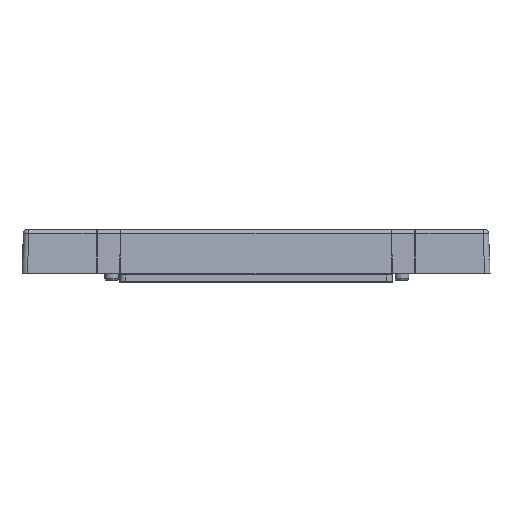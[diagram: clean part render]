
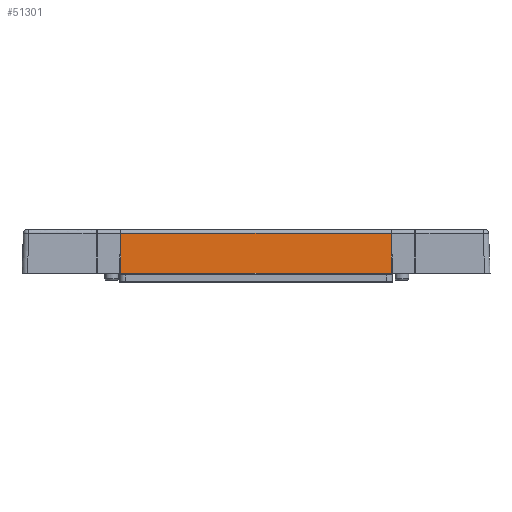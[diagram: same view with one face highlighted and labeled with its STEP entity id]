
A CAD part, front view. The second image highlights one B-rep face of the part: STEP entity #51301.
In plain terms, the highlighted planar face has unit normal (0, -0.999, 0.035).
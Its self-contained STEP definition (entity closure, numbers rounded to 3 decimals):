
#24635 = CYLINDRICAL_SURFACE('',#24636,3.);
#24636 = AXIS2_PLACEMENT_3D('',#24637,#24638,#24639);
#24637 = CARTESIAN_POINT('',(270.2,163.95,48.3));
#24638 = DIRECTION('',(-1.,-0.,-0.));
#24639 = DIRECTION('',(0.,-0.999,0.035));
#41172 = VERTEX_POINT('',#41173);
#41173 = CARTESIAN_POINT('',(70.8,160.951,48.405));
#41217 = B_SPLINE_SURFACE_WITH_KNOTS('',1,1,(
    (#41218,#41219)
    ,(#41220,#41221
    )),.UNSPECIFIED.,.F.,.F.,.F.,(2,2),(2,2),(-7.584,0.),(0.,1.),
  .PIECEWISE_BEZIER_KNOTS.);
#41218 = CARTESIAN_POINT('',(63.216,161.053,51.3));
#41219 = CARTESIAN_POINT('',(64.365,159.904,18.4));
#41220 = CARTESIAN_POINT('',(70.8,161.053,51.3));
#41221 = CARTESIAN_POINT('',(70.8,159.904,18.4));
#41232 = VERTEX_POINT('',#41233);
#41233 = CARTESIAN_POINT('',(270.2,160.951,48.405));
#41264 = EDGE_CURVE('',#41232,#41172,#41265,.T.);
#41265 = SURFACE_CURVE('',#41266,(#41270,#41277),.PCURVE_S1.);
#41266 = LINE('',#41267,#41268);
#41267 = CARTESIAN_POINT('',(270.2,160.951,48.405));
#41268 = VECTOR('',#41269,1.);
#41269 = DIRECTION('',(-1.,-0.,-0.));
#41270 = PCURVE('',#24635,#41271);
#41271 = DEFINITIONAL_REPRESENTATION('',(#41272),#41276);
#41272 = LINE('',#41273,#41274);
#41273 = CARTESIAN_POINT('',(0.,0.));
#41274 = VECTOR('',#41275,1.);
#41275 = DIRECTION('',(0.,1.));
#41276 = ( GEOMETRIC_REPRESENTATION_CONTEXT(2) 
PARAMETRIC_REPRESENTATION_CONTEXT() REPRESENTATION_CONTEXT('2D SPACE',''
  ) );
#41277 = PCURVE('',#41278,#41283);
#41278 = PLANE('',#41279);
#41279 = AXIS2_PLACEMENT_3D('',#41280,#41281,#41282);
#41280 = CARTESIAN_POINT('',(70.8,159.904,18.4));
#41281 = DIRECTION('',(0.,0.999,-0.035));
#41282 = DIRECTION('',(1.,0.,0.));
#41283 = DEFINITIONAL_REPRESENTATION('',(#41284),#41288);
#41284 = LINE('',#41285,#41286);
#41285 = CARTESIAN_POINT('',(199.4,-30.023));
#41286 = VECTOR('',#41287,1.);
#41287 = DIRECTION('',(-1.,0.));
#41288 = ( GEOMETRIC_REPRESENTATION_CONTEXT(2) 
PARAMETRIC_REPRESENTATION_CONTEXT() REPRESENTATION_CONTEXT('2D SPACE',''
  ) );
#41330 = B_SPLINE_SURFACE_WITH_KNOTS('',1,1,(
    (#41331,#41332)
    ,(#41333,#41334
    )),.UNSPECIFIED.,.F.,.F.,.F.,(2,2),(2,2),(-9.853,0.),(0.,1.),
  .PIECEWISE_BEZIER_KNOTS.);
#41331 = CARTESIAN_POINT('',(270.2,161.053,51.3));
#41332 = CARTESIAN_POINT('',(270.2,159.904,18.4));
#41333 = CARTESIAN_POINT('',(280.053,161.053,51.3));
#41334 = CARTESIAN_POINT('',(278.904,159.904,18.4));
#51256 = VERTEX_POINT('',#51257);
#51257 = CARTESIAN_POINT('',(70.8,159.924,18.979));
#51283 = EDGE_CURVE('',#41172,#51256,#51284,.T.);
#51284 = SURFACE_CURVE('',#51285,(#51288,#51295),.PCURVE_S1.);
#51285 = B_SPLINE_CURVE_WITH_KNOTS('',1,(#51286,#51287),.UNSPECIFIED.,
  .F.,.F.,(2,2),(0.,1.),.PIECEWISE_BEZIER_KNOTS.);
#51286 = CARTESIAN_POINT('',(70.8,161.053,51.3));
#51287 = CARTESIAN_POINT('',(70.8,159.904,18.4));
#51288 = PCURVE('',#41217,#51289);
#51289 = DEFINITIONAL_REPRESENTATION('',(#51290),#51294);
#51290 = LINE('',#51291,#51292);
#51291 = CARTESIAN_POINT('',(0.,0.));
#51292 = VECTOR('',#51293,1.);
#51293 = DIRECTION('',(0.,1.));
#51294 = ( GEOMETRIC_REPRESENTATION_CONTEXT(2) 
PARAMETRIC_REPRESENTATION_CONTEXT() REPRESENTATION_CONTEXT('2D SPACE',''
  ) );
#51295 = PCURVE('',#41278,#51296);
#51296 = DEFINITIONAL_REPRESENTATION('',(#51297),#51300);
#51297 = B_SPLINE_CURVE_WITH_KNOTS('',1,(#51298,#51299),.UNSPECIFIED.,
  .F.,.F.,(2,2),(0.,1.),.PIECEWISE_BEZIER_KNOTS.);
#51298 = CARTESIAN_POINT('',(0.,-32.92));
#51299 = CARTESIAN_POINT('',(0.,0.));
#51300 = ( GEOMETRIC_REPRESENTATION_CONTEXT(2) 
PARAMETRIC_REPRESENTATION_CONTEXT() REPRESENTATION_CONTEXT('2D SPACE',''
  ) );
#51301 = ADVANCED_FACE('',(#51302),#41278,.F.);
#51302 = FACE_BOUND('',#51303,.F.);
#51303 = EDGE_LOOP('',(#51304,#51325,#51351,#51352));
#51304 = ORIENTED_EDGE('',*,*,#51305,.T.);
#51305 = EDGE_CURVE('',#41232,#51306,#51308,.T.);
#51306 = VERTEX_POINT('',#51307);
#51307 = CARTESIAN_POINT('',(270.2,159.924,18.979));
#51308 = SURFACE_CURVE('',#51309,(#51312,#51318),.PCURVE_S1.);
#51309 = B_SPLINE_CURVE_WITH_KNOTS('',1,(#51310,#51311),.UNSPECIFIED.,
  .F.,.F.,(2,2),(0.,1.),.PIECEWISE_BEZIER_KNOTS.);
#51310 = CARTESIAN_POINT('',(270.2,161.053,51.3));
#51311 = CARTESIAN_POINT('',(270.2,159.904,18.4));
#51312 = PCURVE('',#41278,#51313);
#51313 = DEFINITIONAL_REPRESENTATION('',(#51314),#51317);
#51314 = B_SPLINE_CURVE_WITH_KNOTS('',1,(#51315,#51316),.UNSPECIFIED.,
  .F.,.F.,(2,2),(0.,1.),.PIECEWISE_BEZIER_KNOTS.);
#51315 = CARTESIAN_POINT('',(199.4,-32.92));
#51316 = CARTESIAN_POINT('',(199.4,0.));
#51317 = ( GEOMETRIC_REPRESENTATION_CONTEXT(2) 
PARAMETRIC_REPRESENTATION_CONTEXT() REPRESENTATION_CONTEXT('2D SPACE',''
  ) );
#51318 = PCURVE('',#41330,#51319);
#51319 = DEFINITIONAL_REPRESENTATION('',(#51320),#51324);
#51320 = LINE('',#51321,#51322);
#51321 = CARTESIAN_POINT('',(-9.853,0.));
#51322 = VECTOR('',#51323,1.);
#51323 = DIRECTION('',(0.,1.));
#51324 = ( GEOMETRIC_REPRESENTATION_CONTEXT(2) 
PARAMETRIC_REPRESENTATION_CONTEXT() REPRESENTATION_CONTEXT('2D SPACE',''
  ) );
#51325 = ORIENTED_EDGE('',*,*,#51326,.T.);
#51326 = EDGE_CURVE('',#51306,#51256,#51327,.T.);
#51327 = SURFACE_CURVE('',#51328,(#51332,#51339),.PCURVE_S1.);
#51328 = LINE('',#51329,#51330);
#51329 = CARTESIAN_POINT('',(270.2,159.924,18.979));
#51330 = VECTOR('',#51331,1.);
#51331 = DIRECTION('',(-1.,-0.,-0.));
#51332 = PCURVE('',#41278,#51333);
#51333 = DEFINITIONAL_REPRESENTATION('',(#51334),#51338);
#51334 = LINE('',#51335,#51336);
#51335 = CARTESIAN_POINT('',(199.4,-0.579));
#51336 = VECTOR('',#51337,1.);
#51337 = DIRECTION('',(-1.,0.));
#51338 = ( GEOMETRIC_REPRESENTATION_CONTEXT(2) 
PARAMETRIC_REPRESENTATION_CONTEXT() REPRESENTATION_CONTEXT('2D SPACE',''
  ) );
#51339 = PCURVE('',#51340,#51345);
#51340 = CYLINDRICAL_SURFACE('',#51341,0.6);
#51341 = AXIS2_PLACEMENT_3D('',#51342,#51343,#51344);
#51342 = CARTESIAN_POINT('',(270.2,159.324,19.));
#51343 = DIRECTION('',(-1.,-0.,-0.));
#51344 = DIRECTION('',(0.,0.,-1.));
#51345 = DEFINITIONAL_REPRESENTATION('',(#51346),#51350);
#51346 = LINE('',#51347,#51348);
#51347 = CARTESIAN_POINT('',(-1.536,0.));
#51348 = VECTOR('',#51349,1.);
#51349 = DIRECTION('',(-0.,1.));
#51350 = ( GEOMETRIC_REPRESENTATION_CONTEXT(2) 
PARAMETRIC_REPRESENTATION_CONTEXT() REPRESENTATION_CONTEXT('2D SPACE',''
  ) );
#51351 = ORIENTED_EDGE('',*,*,#51283,.F.);
#51352 = ORIENTED_EDGE('',*,*,#41264,.F.);
